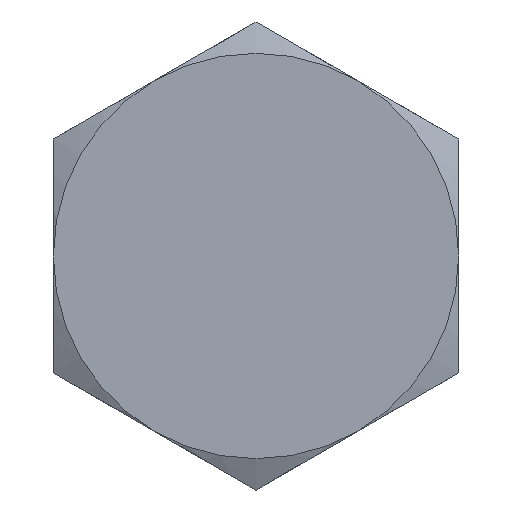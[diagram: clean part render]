
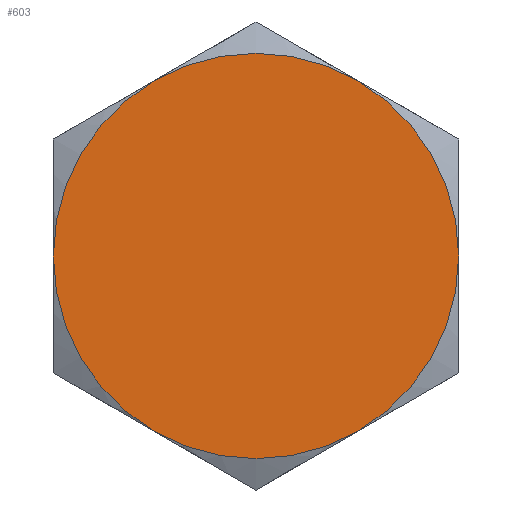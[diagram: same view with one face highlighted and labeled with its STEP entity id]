
A CAD part, left-side view. The second image highlights one B-rep face of the part: STEP entity #603.
In plain terms, the highlighted planar face has unit normal (-1, 0, 0).
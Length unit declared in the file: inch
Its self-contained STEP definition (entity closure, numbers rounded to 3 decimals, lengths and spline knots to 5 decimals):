
#41=PLANE('',#667);
#71=FACE_OUTER_BOUND('',#110,.T.);
#110=EDGE_LOOP('',(#461));
#141=CIRCLE('',#668,0.2185);
#257=VERTEX_POINT('',#4849);
#331=EDGE_CURVE('',#257,#257,#141,.T.);
#461=ORIENTED_EDGE('',*,*,#331,.T.);
#603=ADVANCED_FACE('',(#71),#41,.T.);
#667=AXIS2_PLACEMENT_3D('',#4848,#757,#758);
#668=AXIS2_PLACEMENT_3D('',#4850,#759,#760);
#757=DIRECTION('center_axis',(-1.,0.,0.));
#758=DIRECTION('ref_axis',(0.,1.,0.));
#759=DIRECTION('center_axis',(-1.,0.,0.));
#760=DIRECTION('ref_axis',(0.,0.,-1.));
#4848=CARTESIAN_POINT('Origin',(0.,0.,0.));
#4849=CARTESIAN_POINT('',(0.,0.,0.2185));
#4850=CARTESIAN_POINT('Origin',(0.,0.,0.));
